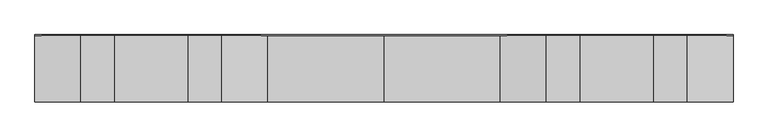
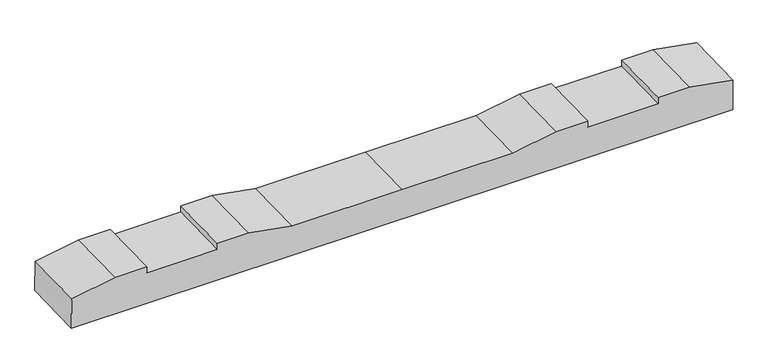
"""IFC4 building model written with IfcOpenShell, lengths in millimetres: proxy geometry, 轨枕-立面角度 : 轨枕-立面角度."""

from ifc_helpers import new_model, si_unit, frame, origin, place, context, project, spatial, polyline, outline, extrude, source, transform, mapped, element, save


def generic_models_ad5c2b97(model_context):
    return source(origin(), model_context, "Body", "SweptSolid", [
        extrude(outline(polyline([(0.0, 0.0), (2099.7669328, 0.0), (2099.7669328, -100.0206889), (1961.8834664, -124.5), (1861.8834664, -124.5), (1861.8834664, -104.5), (1637.8834664, -104.5), (1637.8834664, -124.5), (1537.8834664, -124.5), (1399.8834664, -100.0), (1049.8834664, -100.0), (699.8834664, -100.0), (561.8834664, -124.5), (461.8834664, -124.5), (461.8834664, -104.5), (237.8834664, -104.5), (237.8834664, -124.5), (137.8834664, -124.5), (0.0, -100.0206889), (0.0, 0.0)])), frame((-1049.8834664, -97.4111076, -106.9173799), z_axis=(0.0, 0.9997001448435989, 0.02448714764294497), x_axis=(1.0, 0.0, 0.0)), (0.0, 0.0, 1.0), 200.0),
    ])


if __name__ == "__main__":
    model = new_model("IFC4")
    model_context = context("Model", 3, world=origin())
    ifc_project = project(units=[si_unit("LENGTHUNIT", "METRE", prefix="MILLI")], contexts=[model_context])
    site = spatial("IfcSite", under=ifc_project)
    building = spatial("IfcBuilding", under=site)
    placement = place(None, origin())
    generic_models_shape = generic_models_ad5c2b97(model_context)
    element("IfcBuildingElementProxy", 1, Name="轨枕-立面角度 : 轨枕-立面角度", ObjectType="轨枕-立面角度 : 轨枕-立面角度", at=placement, inside=building, context=model_context, shape_type="MappedRepresentation", body=[
        mapped(generic_models_shape, transform((0.0, 0.0, 0.0), x_axis=(1.0, 0.0, 0.0), y_axis=(0.0, 1.0, 0.0), z_axis=(0.0, 0.0, 1.0))),
    ])
    save(model, "model.ifc")
